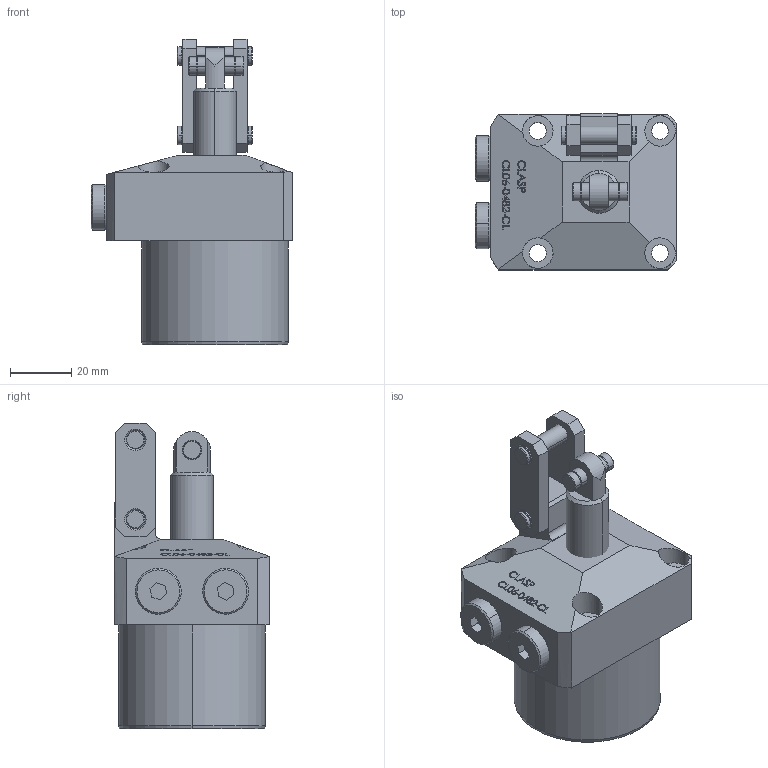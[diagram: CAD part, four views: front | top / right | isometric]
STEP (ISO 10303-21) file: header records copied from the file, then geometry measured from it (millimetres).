
FILE_DESCRIPTION (( 'STEP AP203' ), '1' );
FILE_NAME ('CLO6-0482 cl.STEP', '2022-07-05T17:24:49', ( '' ), ( '' ), 'SwSTEP 2.0', 'SolidWorks 2017', '' );
FILE_SCHEMA (( 'CONFIG_CONTROL_DESIGN' ));
Length unit declared in the file: millimetre
Products named in the file (7): CLO6-0482 Part7 cl; CLO6-0482 cl; CLO6-0482 Part1 cl; CLO6-0482 Part3 cl; CLO6-0482 Part2 cl; CLO6-0482 Part5 cl; CLO6-0482 Part6 cl
Assembly tree (9 placements, depth 2):
  CLO6-0482 cl
    CLO6-0482 Part1 cl
    CLO6-0482 Part3 cl
    CLO6-0482 Part2 cl  x2
    CLO6-0482 Part5 cl  x2
    CLO6-0482 Part6 cl  x2
    CLO6-0482 Part7 cl
Bounding box: 66 x 51 x 100 mm (x, y, z)
Volume: 148369 mm3; surface area: 29128.7 mm2
Topology: 9 solids, 9 shells, 424 faces, 1029 edges, 666 vertices
Faces by surface type: plane 190, bspline 98, cylinder 88, cone 48
Entity records: 17414 total; most frequent: CARTESIAN_POINT 8466, ORIENTED_EDGE 1806, DIRECTION 1405, EDGE_CURVE 903, VERTEX_POINT 590, LINE 523, VECTOR 523, AXIS2_PLACEMENT_3D 441
